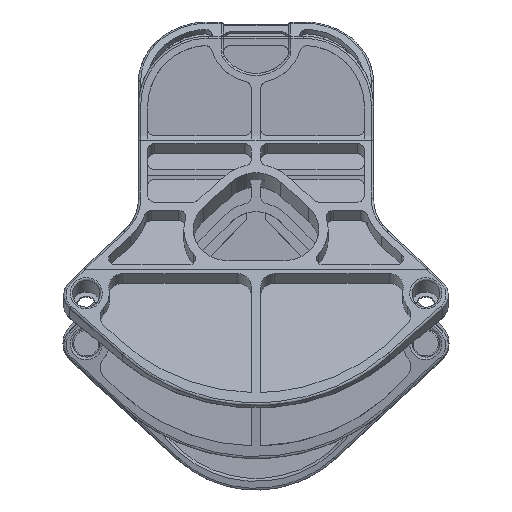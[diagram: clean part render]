
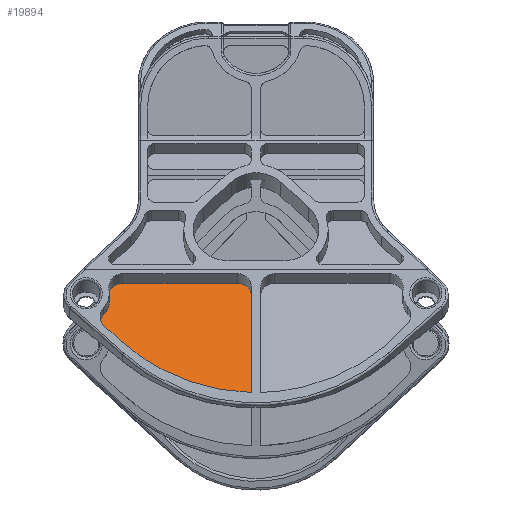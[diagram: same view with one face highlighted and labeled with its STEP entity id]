
A CAD part, top view. The second image highlights one B-rep face of the part: STEP entity #19894.
In plain terms, the highlighted planar face has unit normal (0, 0.438, 0.899) as drawn and (0, 0, 1) by its records, which use the part's own axes.
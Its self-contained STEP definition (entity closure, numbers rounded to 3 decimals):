
#1248=PLANE('',#22456);
#2278=FACE_OUTER_BOUND('',#3477,.T.);
#3477=EDGE_LOOP('',(#17790,#17791,#17792,#17793,#17794,#17795,#17796,#17797));
#4921=LINE('',#37138,#6383);
#4925=LINE('',#37148,#6387);
#4930=LINE('',#37164,#6392);
#6383=VECTOR('',#28301,10.);
#6387=VECTOR('',#28311,10.);
#6392=VECTOR('',#28334,10.);
#7603=CIRCLE('',#22440,3.);
#7604=CIRCLE('',#22443,3.);
#7605=CIRCLE('',#22446,3.);
#7606=CIRCLE('',#22448,4.95);
#7607=CIRCLE('',#22455,42.5);
#9465=VERTEX_POINT('',#37130);
#9466=VERTEX_POINT('',#37131);
#9467=VERTEX_POINT('',#37136);
#9468=VERTEX_POINT('',#37140);
#9469=VERTEX_POINT('',#37141);
#9470=VERTEX_POINT('',#37146);
#9471=VERTEX_POINT('',#37150);
#9472=VERTEX_POINT('',#37163);
#12283=EDGE_CURVE('',#9465,#9466,#7603,.T.);
#12287=EDGE_CURVE('',#9467,#9466,#4921,.T.);
#12288=EDGE_CURVE('',#9468,#9469,#7604,.T.);
#12292=EDGE_CURVE('',#9470,#9469,#4925,.T.);
#12293=EDGE_CURVE('',#9467,#9471,#7605,.T.);
#12295=EDGE_CURVE('',#9468,#9471,#7606,.T.);
#12299=EDGE_CURVE('',#9465,#9472,#4930,.T.);
#12301=EDGE_CURVE('',#9472,#9470,#7607,.T.);
#17790=ORIENTED_EDGE('',*,*,#12283,.T.);
#17791=ORIENTED_EDGE('',*,*,#12287,.F.);
#17792=ORIENTED_EDGE('',*,*,#12293,.T.);
#17793=ORIENTED_EDGE('',*,*,#12295,.F.);
#17794=ORIENTED_EDGE('',*,*,#12288,.T.);
#17795=ORIENTED_EDGE('',*,*,#12292,.F.);
#17796=ORIENTED_EDGE('',*,*,#12301,.F.);
#17797=ORIENTED_EDGE('',*,*,#12299,.F.);
#19894=ADVANCED_FACE('',(#2278),#1248,.T.);
#22440=AXIS2_PLACEMENT_3D('',#37132,#28294,#28295);
#22443=AXIS2_PLACEMENT_3D('',#37142,#28304,#28305);
#22446=AXIS2_PLACEMENT_3D('',#37151,#28314,#28315);
#22448=AXIS2_PLACEMENT_3D('',#37154,#28319,#28320);
#22455=AXIS2_PLACEMENT_3D('',#37167,#28338,#28339);
#22456=AXIS2_PLACEMENT_3D('',#37168,#28340,#28341);
#28294=DIRECTION('center_axis',(0.,0.,1.));
#28295=DIRECTION('ref_axis',(0.707,0.707,0.));
#28301=DIRECTION('',(1.,0.,0.));
#28304=DIRECTION('center_axis',(0.,0.,1.));
#28305=DIRECTION('ref_axis',(-0.998,-0.057,0.));
#28311=DIRECTION('',(-0.737,0.676,0.));
#28314=DIRECTION('center_axis',(0.,0.,1.));
#28315=DIRECTION('ref_axis',(-0.761,0.649,0.));
#28319=DIRECTION('center_axis',(0.,0.,1.));
#28320=DIRECTION('ref_axis',(-0.23,0.973,0.));
#28334=DIRECTION('',(0.,-1.,0.));
#28338=DIRECTION('center_axis',(0.,0.,-1.));
#28339=DIRECTION('ref_axis',(-0.676,-0.737,0.));
#28340=DIRECTION('center_axis',(0.,0.,1.));
#28341=DIRECTION('ref_axis',(1.,0.,0.));
#37130=CARTESIAN_POINT('',(-1.,-16.5,2.));
#37131=CARTESIAN_POINT('',(-4.,-13.5,2.));
#37132=CARTESIAN_POINT('Origin',(-4.,-16.5,2.));
#37136=CARTESIAN_POINT('',(-28.604,-13.5,2.));
#37138=CARTESIAN_POINT('',(-1.,-13.5,2.));
#37140=CARTESIAN_POINT('',(-32.713,-20.999,2.));
#37141=CARTESIAN_POINT('',(-32.473,-25.176,2.));
#37142=CARTESIAN_POINT('Origin',(-30.447,-22.964,2.));
#37146=CARTESIAN_POINT('',(-28.713,-28.622,2.));
#37148=CARTESIAN_POINT('',(-35.313,-22.573,2.));
#37150=CARTESIAN_POINT('',(-31.566,-16.974,2.));
#37151=CARTESIAN_POINT('Origin',(-28.604,-16.5,2.));
#37154=CARTESIAN_POINT('Origin',(-36.454,-17.756,2.));
#37163=CARTESIAN_POINT('',(-1.,-39.776,2.));
#37164=CARTESIAN_POINT('',(-1.,-39.776,2.));
#37167=CARTESIAN_POINT('Origin',(0.,2.713,
2.));
#37168=CARTESIAN_POINT('Origin',(-15.331,-23.597,2.));
